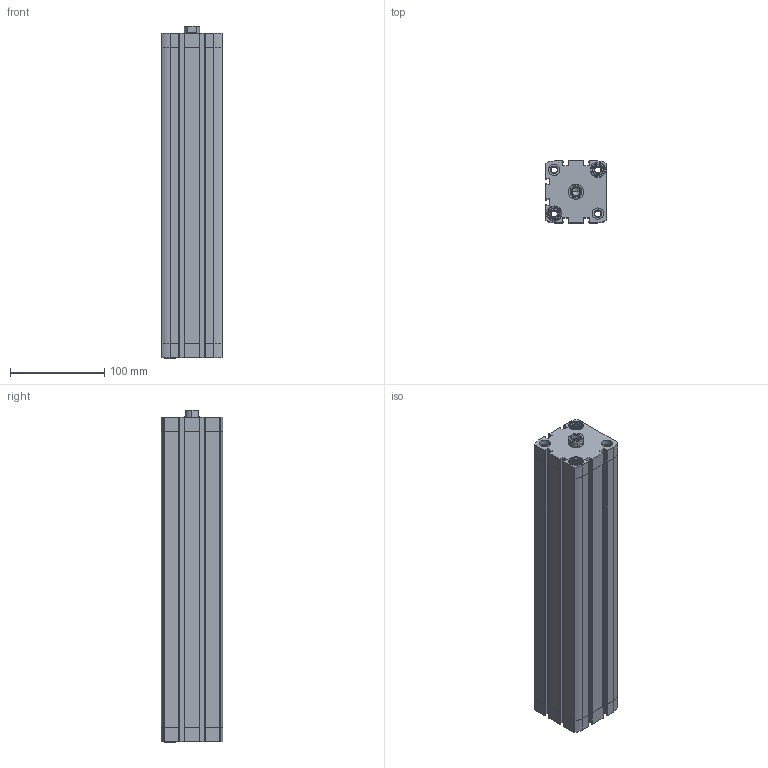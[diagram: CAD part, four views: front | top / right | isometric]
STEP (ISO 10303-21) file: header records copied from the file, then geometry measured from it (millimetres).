
FILE_DESCRIPTION (( 'STEP AP203' ), '1' );
FILE_NAME ('CCN50-300F.STEP', '2017-04-05T11:38:37', ( '' ), ( '' ), 'SwSTEP 2.0', 'SolidWorks 2016', '' );
FILE_SCHEMA (( 'CONFIG_CONTROL_DESIGN' ));
Length unit declared in the file: millimetre
Products named in the file (3): CCN-300_(KS); CCN50-300F; CCN-300----(Z)
Assembly tree (2 placements, depth 2):
  CCN50-300F
    CCN-300----(Z)
    CCN-300_(KS)
Bounding box: 65.5 x 65.5 x 352.7 mm (x, y, z)
Volume: 798967.4 mm3; surface area: 228922.2 mm2
Topology: 2 solids, 2 shells, 471 faces, 1270 edges, 833 vertices
Faces by surface type: plane 219, cylinder 210, cone 42
Entity records: 15269 total; most frequent: CARTESIAN_POINT 2871, DIRECTION 2588, ORIENTED_EDGE 2536, EDGE_CURVE 1268, AXIS2_PLACEMENT_3D 942, VERTEX_POINT 833, VECTOR 704, LINE 704
